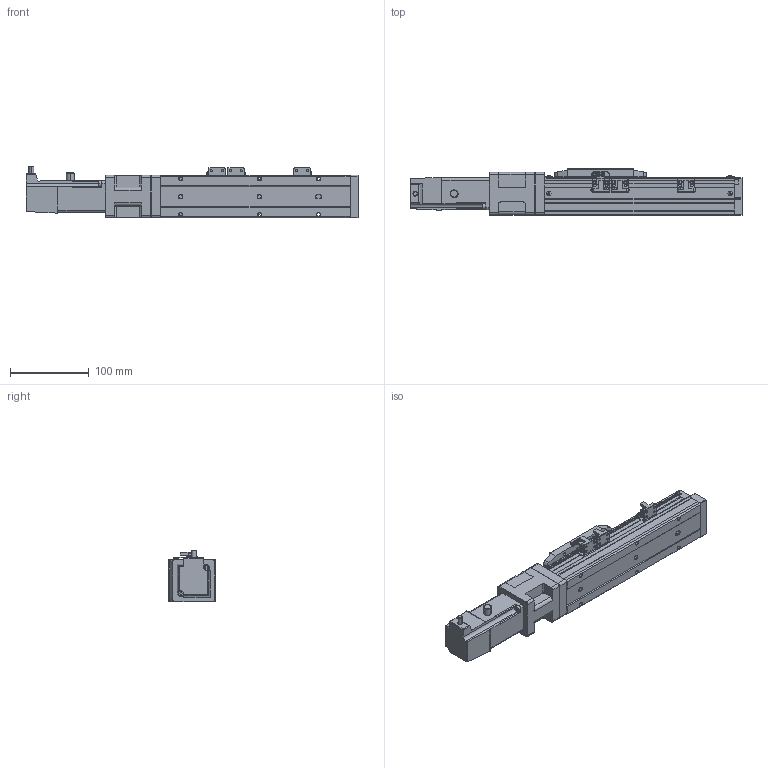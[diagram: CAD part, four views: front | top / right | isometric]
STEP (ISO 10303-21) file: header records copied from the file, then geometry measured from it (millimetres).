
FILE_DESCRIPTION (( 'STEP AP203' ), '1' );
FILE_NAME ('CTH5-L10-S100-BC-C10(¼ò).STEP', '2023-02-04T02:02:43', ( '' ), ( '' ), 'SwSTEP 2.0', 'SolidWorks 2018', '' );
FILE_SCHEMA (( 'CONFIG_CONTROL_DESIGN' ));
Length unit declared in the file: millimetre
Products named in the file (21): CTH5耜晚蹟隊-1; PM-Y45; hex nuts, style 1-grades ab gb_GB_FASTENER_NUT_SNAB1 M3-N; CTH5-BC-03; 嫖萇羲壽郪磁1; T10-p1; CTH5-L10-S100-BC-C10(潠); 100W萇儂; CTH5萇儂釱欶; CTH嫖萇羲壽假蚾啣; CTH5菁釱-L240; CTH5綴耜啣; M3; CTH5ヶ耜啣(潠); 葩璃 蚾饜极13^CTH8-L10-S50-BM-C40(潠)1; CTH5耜晚蹟隊; CTH5萇儂釱; M3｡｣; 内六角圆柱头螺钉M3-2; CTH5賑怢; CTH5覜茼え
Assembly tree (37 placements, depth 3):
  CTH5-L10-S100-BC-C10(潠)
    CTH5綴耜啣
    CTH5賑怢
    CTH5ヶ耜啣(潠)
    CTH5菁釱-L240
    CTH5耜晚蹟隊  x2
    CTH5萇儂釱
      CTH5-BC-03
    CTH5萇儂釱欶
    100W萇儂
      T10-p1
    嫖萇羲壽郪磁1  x2
      CTH嫖萇羲壽假蚾啣
      PM-Y45
      M3｡｣
      内六角圆柱头螺钉M3-2
      hex nuts, style 1-grades ab gb_GB_FASTENER_NUT_SNAB1 M3-N
    CTH5覜茼え
    葩璃 蚾饜极13^CTH8-L10-S50-BM-C40(潠)1
      CTH嫖萇羲壽假蚾啣
      PM-Y45
      内六角圆柱头螺钉M3-2  x2
      M3｡｣  x2
      hex nuts, style 1-grades ab gb_GB_FASTENER_NUT_SNAB1 M3-N  x2
    M3  x2
    CTH5耜晚蹟隊-1  x4
Bounding box: 421.1 x 60 x 65.7 mm (x, y, z)
Volume: 889375.6 mm3; surface area: 158264.8 mm2
Topology: 40 solids, 40 shells, 1479 faces, 3676 edges, 2378 vertices
Faces by surface type: plane 848, cylinder 426, cone 143, torus 44, bspline 18
Entity records: 32637 total; most frequent: CARTESIAN_POINT 5980, DIRECTION 5112, ORIENTED_EDGE 4900, EDGE_CURVE 2450, AXIS2_PLACEMENT_3D 1745, VECTOR 1622, LINE 1622, VERTEX_POINT 1584
